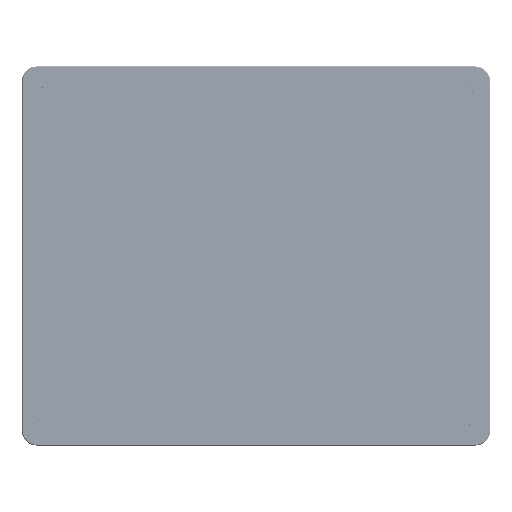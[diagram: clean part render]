
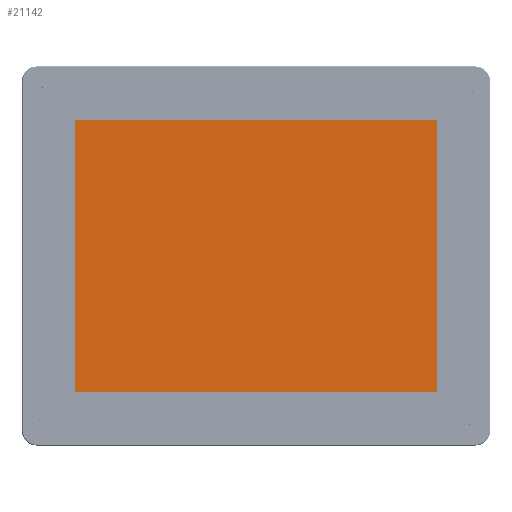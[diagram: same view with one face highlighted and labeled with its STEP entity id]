
A CAD part, top view. The second image highlights one B-rep face of the part: STEP entity #21142.
In plain terms, the highlighted planar face has unit normal (0, 0, 1).
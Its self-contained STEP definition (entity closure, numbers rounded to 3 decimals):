
#3090 = CARTESIAN_POINT ( 'NONE',  ( 5432.622, -411.142, 14.75 ) ) ;
#5043 = PLANE ( 'NONE',  #348651 ) ;
#5046 = VECTOR ( 'NONE', #271321, 1000. ) ;
#8472 = VECTOR ( 'NONE', #80594, 1000. ) ;
#17626 = CARTESIAN_POINT ( 'NONE',  ( -163.526, 92.819, 14.75 ) ) ;
#21142 = ADVANCED_FACE ( 'NONE', ( #263115 ), #5043, .T. ) ;
#32356 = ORIENTED_EDGE ( 'NONE', *, *, #235143, .T. ) ;
#36374 = LINE ( 'NONE', #129283, #8472 ) ;
#42287 = CARTESIAN_POINT ( 'NONE',  ( 84.474, 92.819, 14.75 ) ) ;
#42336 = LINE ( 'NONE', #17626, #425807 ) ;
#46904 = LINE ( 'NONE', #448673, #5046 ) ;
#53668 = DIRECTION ( 'NONE',  ( 1., 0., 0. ) ) ;
#67910 = EDGE_CURVE ( 'NONE', #423479, #104740, #46904, .T. ) ;
#70963 = CARTESIAN_POINT ( 'NONE',  ( 84.474, 92.819, 14.75 ) ) ;
#80594 = DIRECTION ( 'NONE',  ( 1., 0., 0. ) ) ;
#94742 = CARTESIAN_POINT ( 'NONE',  ( -163.526, -93.681, 14.75 ) ) ;
#104740 = VERTEX_POINT ( 'NONE', #281751 ) ;
#129283 = CARTESIAN_POINT ( 'NONE',  ( -163.526, -93.681, 14.75 ) ) ;
#140497 = EDGE_LOOP ( 'NONE', ( #194645, #529939, #32356, #460842 ) ) ;
#194645 = ORIENTED_EDGE ( 'NONE', *, *, #273671, .T. ) ;
#227102 = DIRECTION ( 'NONE',  ( 0., 0., 1. ) ) ;
#229727 = VECTOR ( 'NONE', #431276, 1000. ) ;
#235143 = EDGE_CURVE ( 'NONE', #415199, #423479, #334154, .T. ) ;
#263115 = FACE_OUTER_BOUND ( 'NONE', #140497, .T. ) ;
#271321 = DIRECTION ( 'NONE',  ( -1., 0., 0. ) ) ;
#273671 = EDGE_CURVE ( 'NONE', #104740, #331115, #42336, .T. ) ;
#281751 = CARTESIAN_POINT ( 'NONE',  ( -163.526, 92.819, 14.75 ) ) ;
#282456 = DIRECTION ( 'NONE',  ( 0., -1., 0. ) ) ;
#331115 = VERTEX_POINT ( 'NONE', #94742 ) ;
#334154 = LINE ( 'NONE', #70963, #229727 ) ;
#339023 = EDGE_CURVE ( 'NONE', #331115, #415199, #36374, .T. ) ;
#348651 = AXIS2_PLACEMENT_3D ( 'NONE', #3090, #227102, #53668 ) ;
#415199 = VERTEX_POINT ( 'NONE', #515427 ) ;
#423479 = VERTEX_POINT ( 'NONE', #42287 ) ;
#425807 = VECTOR ( 'NONE', #282456, 1000. ) ;
#431276 = DIRECTION ( 'NONE',  ( 0., 1., 0. ) ) ;
#448673 = CARTESIAN_POINT ( 'NONE',  ( -163.526, 92.819, 14.75 ) ) ;
#460842 = ORIENTED_EDGE ( 'NONE', *, *, #67910, .T. ) ;
#515427 = CARTESIAN_POINT ( 'NONE',  ( 84.474, -93.681, 14.75 ) ) ;
#529939 = ORIENTED_EDGE ( 'NONE', *, *, #339023, .T. ) ;
